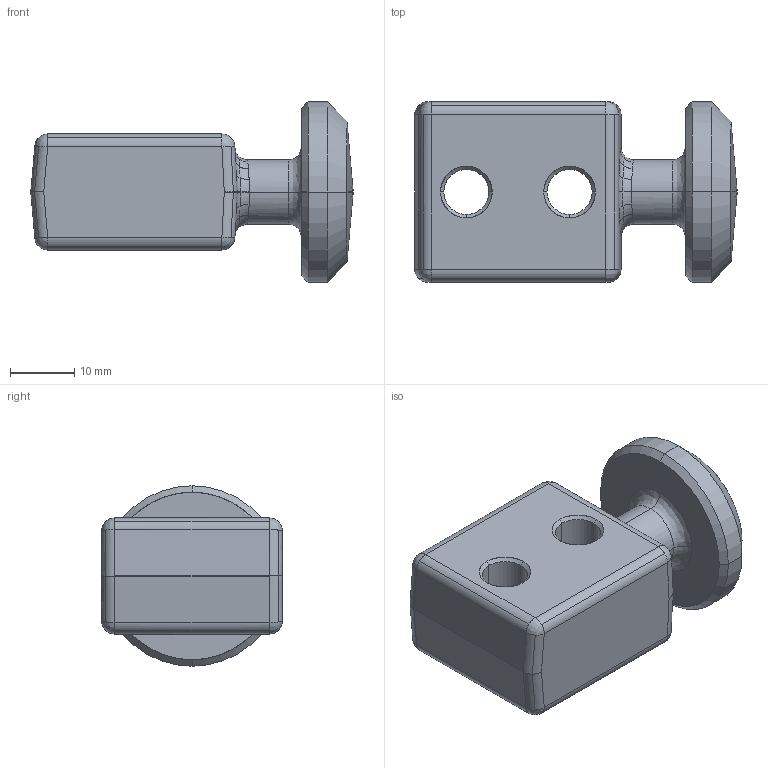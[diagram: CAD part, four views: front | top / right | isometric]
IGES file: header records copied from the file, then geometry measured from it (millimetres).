
Global section: file name: E:\UnigraphicsGraphicData\MISUMI_PRESS-PARTS\IGES\3d_chp10_03558_r00.igs; native system: NX V5.0; preprocessor: UGS NX IGES V5.0; author: MISUMI; date: 20110105.160222; units: millimetre
Bounding box: 50 x 28 x 28 mm (x, y, z)
Surface area: 5964.4 mm2 (no closed solid volume)
Topology: 0 solids, 0 shells, 137 faces, 680 edges, 666 vertices
Faces by surface type: bspline 137
